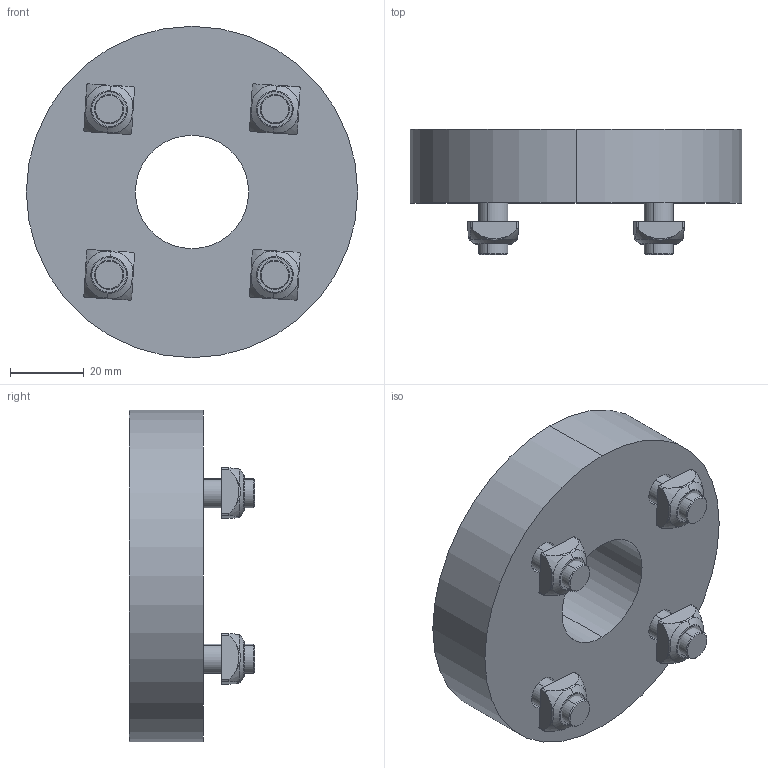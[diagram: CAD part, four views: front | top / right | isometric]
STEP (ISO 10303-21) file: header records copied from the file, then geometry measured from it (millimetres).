
FILE_DESCRIPTION (( 'STEP AP203' ), '1' );
FILE_NAME ('900.400.105.STEP', '2015-05-25T11:45:29', ( '' ), ( '' ), 'SwSTEP 2.0', 'SolidWorks 2012', '' );
FILE_SCHEMA (( 'CONFIG_CONTROL_DESIGN' ));
Length unit declared in the file: millimetre
Products named in the file (1): 900.400.105
Bounding box: 90 x 34 x 90 mm (x, y, z)
Volume: 114223.9 mm3; surface area: 28328.9 mm2
Topology: 9 solids, 9 shells, 194 faces, 468 edges, 304 vertices
Faces by surface type: plane 70, cylinder 60, torus 32, cone 16, bspline 16
Entity records: 7029 total; most frequent: CARTESIAN_POINT 2535, ORIENTED_EDGE 936, DIRECTION 874, EDGE_CURVE 468, AXIS2_PLACEMENT_3D 347, VERTEX_POINT 304, EDGE_LOOP 224, FACE_OUTER_BOUND 194
